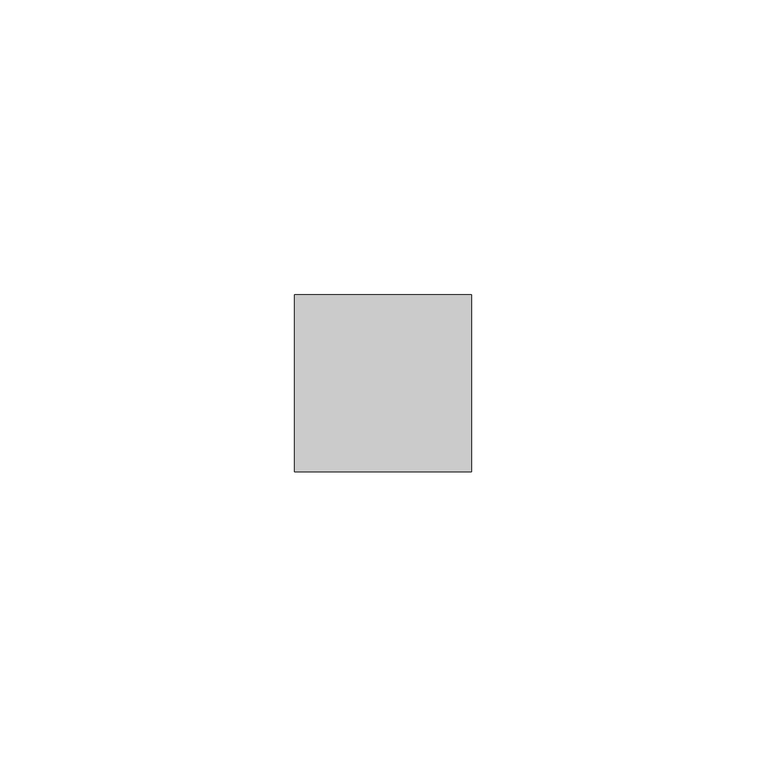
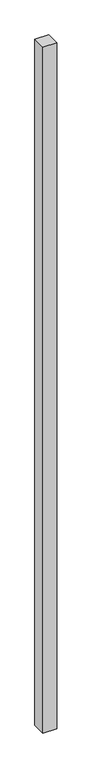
"""IFC4 building model written with IfcOpenShell, lengths in millimetres: member geometry, 矩形竖梃 : 30mm 正方形."""

from ifc_helpers import new_model, si_unit, frame, origin, place, context, project, spatial, polyline, outline, extrude, source, transform, mapped, element, save


def member_87f0dc7e(model_context):
    return source(origin(), model_context, "Body", "SweptSolid", [
        extrude(outline(polyline([(0.0, 15.0), (0.0, -15.0), (-30.0, -15.0), (-30.0, 15.0), (0.0, 15.0)])), frame((0.0, 0.0, -1570.0), z_axis=(0.0, 0.0, 1.0), x_axis=(1.0, 0.0, 0.0)), (0.0, 0.0, 1.0), 1570.0),
    ])


if __name__ == "__main__":
    model = new_model("IFC4")
    model_context = context("Model", 3, world=origin())
    ifc_project = project(units=[si_unit("LENGTHUNIT", "METRE", prefix="MILLI")], contexts=[model_context])
    site = spatial("IfcSite", under=ifc_project)
    building = spatial("IfcBuilding", under=site)
    placement = place(None, origin())
    member_shape = member_87f0dc7e(model_context)
    element("IfcMember", 1, ObjectType="矩形竖梃 : 30mm 正方形", at=placement, inside=building, context=model_context, shape_type="MappedRepresentation", body=[
        mapped(member_shape, transform((0.0, 0.0, 0.0), x_axis=(1.0, 0.0, 0.0), y_axis=(0.0, 1.0, 0.0), z_axis=(0.0, 0.0, 1.0))),
    ])
    save(model, "model.ifc")
